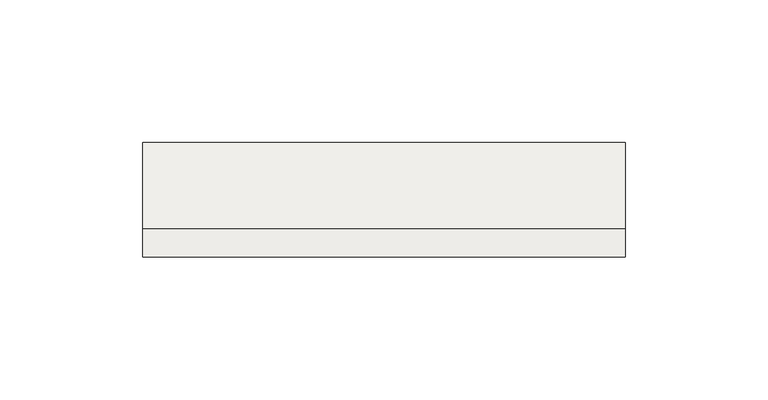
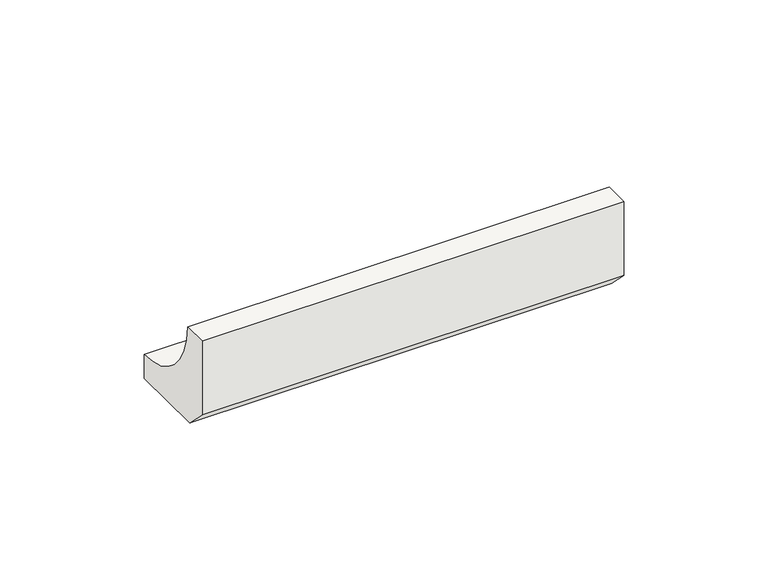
"""IFC4 building model written with IfcOpenShell, lengths in millimetres: slab geometry, ROSA GRES_112 : Pieza 112_Aqua_Plomo_Liso."""

from ifc_helpers import new_model, si_unit, point, frame, frame_2d, origin, place, context, project, spatial, polyline, circle_curve, trimmed, segment, composite_curve, outline, extrude, source, transform, mapped, element, save


def slab_4b10cbd3(model_context):
    return source(origin(), model_context, "Body", "SweptSolid", [
        extrude(outline(composite_curve([segment(polyline([(0.0, 8.7114978), (0.0, 40.0), (9.9734114, 40.0)]), True, "CONTINUOUS"), segment(trimmed(circle_curve(frame_2d((39.9955547, 39.9955547)), 30.0221435), [point((9.9734114, 40.0))], [point((40.0, 9.9734114))], True, "CARTESIAN"), True, "CONTINUOUS"), segment(polyline([(40.0, 9.9734114), (40.0, 0.0), (8.7114978, 0.0), (0.0, 8.7114978)]), True, "CONTINUOUS")], self_intersect=False)), frame((0.0, 0.0, 0.0), z_axis=(1.0, 0.0, 0.0), x_axis=(0.0, 1.0, 0.0)), (0.0, 0.0, 1.0), 168.6158399),
    ])


if __name__ == "__main__":
    model = new_model("IFC4")
    model_context = context("Model", 3, world=origin())
    ifc_project = project(units=[si_unit("LENGTHUNIT", "METRE", prefix="MILLI")], contexts=[model_context])
    site = spatial("IfcSite", under=ifc_project)
    building = spatial("IfcBuilding", under=site)
    placement = place(None, origin())
    slab_shape = slab_4b10cbd3(model_context)
    element("IfcSlab", 1, ObjectType="ROSA GRES_112 : Pieza 112_Aqua_Plomo_Liso", at=placement, inside=building, context=model_context, shape_type="MappedRepresentation", body=[
        mapped(slab_shape, transform((0.0, 0.0, 0.0), x_axis=(1.0, 0.0, 0.0), y_axis=(0.0, 1.0, 0.0), z_axis=(0.0, 0.0, 1.0))),
    ])
    save(model, "model.ifc")
